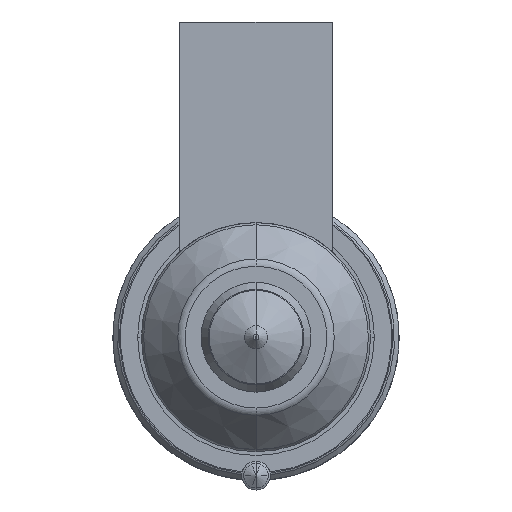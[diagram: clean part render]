
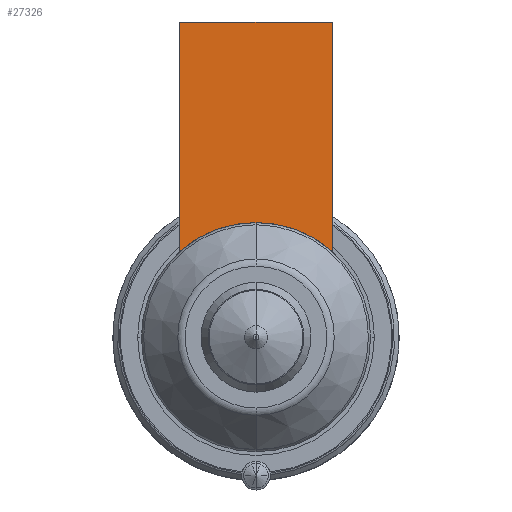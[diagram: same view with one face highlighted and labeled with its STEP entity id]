
A CAD part, front view. The second image highlights one B-rep face of the part: STEP entity #27326.
In plain terms, the highlighted planar face has unit normal (0, -1, 0).
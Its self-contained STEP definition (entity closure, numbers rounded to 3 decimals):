
#26501=DIRECTION('',(0.,0.,-1.));
#26502=VECTOR('',#26501,24.056);
#26503=CARTESIAN_POINT('',(-8.,-56.,33.));
#26504=LINE('',#26503,#26502);
#26516=CARTESIAN_POINT('',(0.,-56.,0.));
#26517=DIRECTION('',(0.,-1.,0.));
#26518=DIRECTION('',(0.,0.,1.));
#26519=AXIS2_PLACEMENT_3D('',#26516,#26517,#26518);
#26524=DIRECTION('',(1.,0.,0.));
#26525=VECTOR('',#26524,16.);
#26526=CARTESIAN_POINT('',(-8.,-56.,33.));
#26527=LINE('',#26526,#26525);
#26531=CARTESIAN_POINT('',(0.,-56.,0.));
#26532=DIRECTION('',(0.,-1.,0.));
#26533=DIRECTION('',(0.667,0.,0.745));
#26534=AXIS2_PLACEMENT_3D('',#26531,#26532,#26533);
#26686=DIRECTION('',(0.,0.,-1.));
#26687=VECTOR('',#26686,24.056);
#26688=CARTESIAN_POINT('',(8.,-56.,33.));
#26689=LINE('',#26688,#26687);
#27241=CARTESIAN_POINT('',(-8.,-56.,33.));
#27242=VERTEX_POINT('',#27241);
#27247=CARTESIAN_POINT('',(8.,-56.,33.));
#27248=VERTEX_POINT('',#27247);
#27250=CARTESIAN_POINT('',(-8.,-56.,8.944));
#27252=VERTEX_POINT('',#27250);
#27254=CARTESIAN_POINT('',(8.,-56.,8.944));
#27256=VERTEX_POINT('',#27254);
#27259=CARTESIAN_POINT('',(0.,-56.,12.));
#27260=VERTEX_POINT('',#27259);
#27311=CARTESIAN_POINT('',(-8.,-56.,33.));
#27312=DIRECTION('',(0.,-1.,0.));
#27313=DIRECTION('',(0.,0.,-1.));
#27314=AXIS2_PLACEMENT_3D('',#27311,#27312,#27313);
#27315=PLANE('',#27314);
#27316=ORIENTED_EDGE('',*,*,#27290,.T.);
#27317=ORIENTED_EDGE('',*,*,#27279,.F.);
#27319=ORIENTED_EDGE('',*,*,#27318,.T.);
#27321=ORIENTED_EDGE('',*,*,#27320,.T.);
#27323=ORIENTED_EDGE('',*,*,#27322,.T.);
#27324=EDGE_LOOP('',(#27316,#27317,#27319,#27321,#27323));
#27325=FACE_OUTER_BOUND('',#27324,.F.);
#27326=ADVANCED_FACE('',(#27325),#27315,.T.);
#26520=CIRCLE('',#26519,12.);
#26535=CIRCLE('',#26534,12.);
#27279=EDGE_CURVE('',#27242,#27252,#26504,.T.);
#27290=EDGE_CURVE('',#27260,#27252,#26520,.T.);
#27318=EDGE_CURVE('',#27242,#27248,#26527,.T.);
#27320=EDGE_CURVE('',#27248,#27256,#26689,.T.);
#27322=EDGE_CURVE('',#27256,#27260,#26535,.T.);
